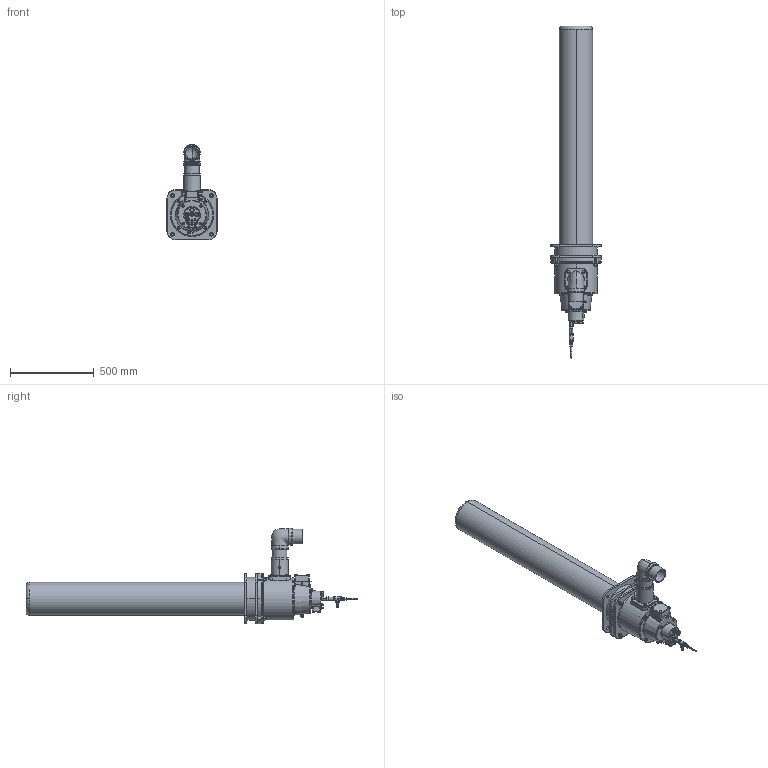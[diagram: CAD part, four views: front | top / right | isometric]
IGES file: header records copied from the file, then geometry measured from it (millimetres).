
Global section: file name: No Iges File Name specified; native system: AutoDesk Inventor R12.0; preprocessor: AutoDesk Inventor Iges Exporter R12.0; date: 20110916.133046; units: millimetre
Bounding box: 300 x 1985.18 x 573.22 mm (x, y, z)
Volume: 82102908.8 mm3; surface area: 3048970.8 mm2
Topology: 26 solids, 26 shells, 2449 faces, 6011 edges, 3757 vertices
Faces by surface type: plane 930, cylinder 513, cone 426, bspline 307, revolution 223, torus 50
Full cylindrical faces by diameter (mm): 14.8 x12, 21.1 x4, 88.9 x10
